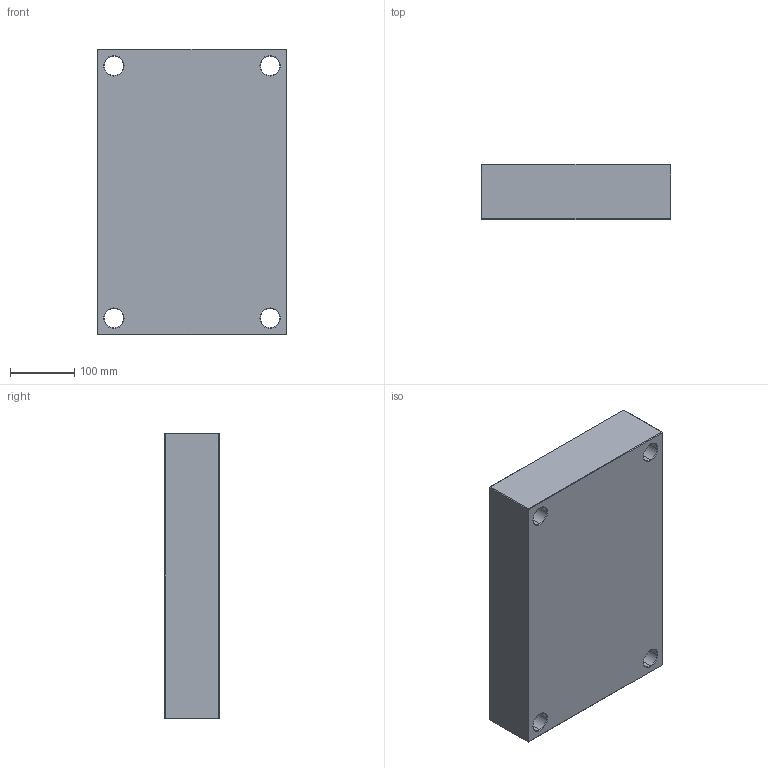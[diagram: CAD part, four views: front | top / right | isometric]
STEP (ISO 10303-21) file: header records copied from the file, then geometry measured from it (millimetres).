
FILE_DESCRIPTION (( 'STEP AP214' ), '1' );
FILE_NAME ('PC-296x446x86.STEP', '2020-04-21T16:42:57', ( 'August' ), ( '' ), 'SwSTEP 2.0', 'SolidWorks 2018', '' );
FILE_SCHEMA (( 'AUTOMOTIVE_DESIGN' ));
Length unit declared in the file: millimetre
Products named in the file (1): PC-296x446x86
Bounding box: 296 x 86 x 446 mm (x, y, z)
Volume: 11089368.4 mm3; surface area: 420014.8 mm2
Topology: 1 solids, 1 shells, 82 faces, 168 edges, 96 vertices
Faces by surface type: plane 34, cone 24, cylinder 24
Entity records: 2170 total; most frequent: DIRECTION 406, CARTESIAN_POINT 347, ORIENTED_EDGE 336, EDGE_CURVE 168, AXIS2_PLACEMENT_3D 155, EDGE_LOOP 98, VECTOR 96, LINE 96
